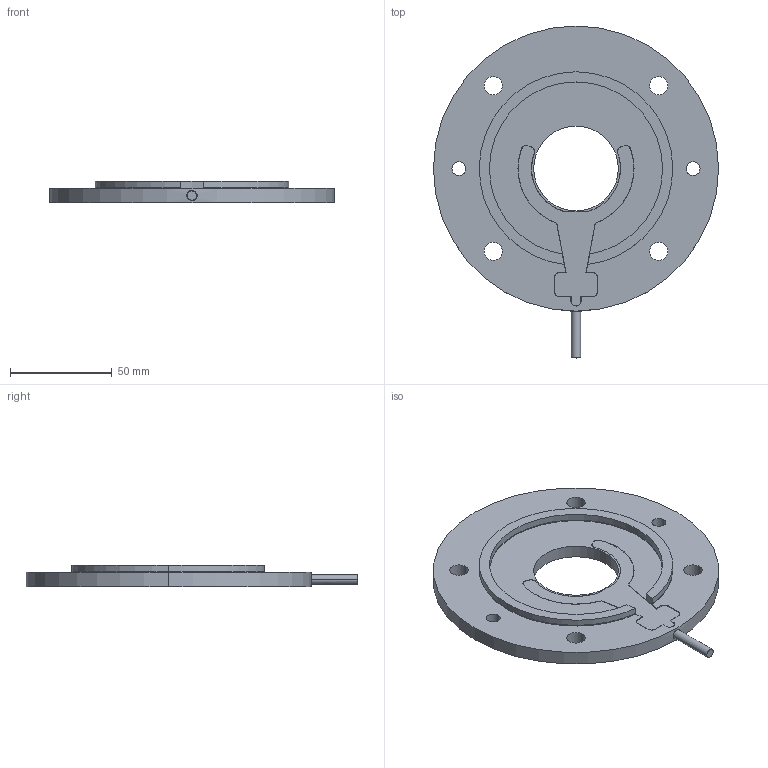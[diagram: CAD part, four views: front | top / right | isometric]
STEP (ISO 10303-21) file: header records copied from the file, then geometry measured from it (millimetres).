
FILE_DESCRIPTION (( 'STEP AP203' ), '1' );
FILE_NAME ('MRH140-7.STEP', '2024-12-16T09:13:36', ( '' ), ( '' ), 'SwSTEP 2.0', 'SolidWorks 2023', '' );
FILE_SCHEMA (( 'CONFIG_CONTROL_DESIGN' ));
Length unit declared in the file: millimetre
Products named in the file (1): MRH140-7
Bounding box: 140 x 163 x 10.5 mm (x, y, z)
Volume: 81183 mm3; surface area: 39682.3 mm2
Topology: 1 solids, 3 shells, 143 faces, 396 edges, 258 vertices
Faces by surface type: cylinder 74, plane 54, torus 11, cone 4
Entity records: 4872 total; most frequent: CARTESIAN_POINT 971, DIRECTION 856, ORIENTED_EDGE 784, EDGE_CURVE 392, AXIS2_PLACEMENT_3D 333, VERTEX_POINT 258, LINE 190, VECTOR 190
